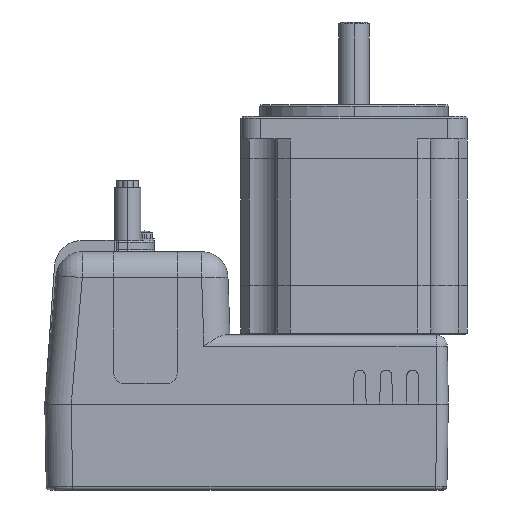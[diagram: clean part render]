
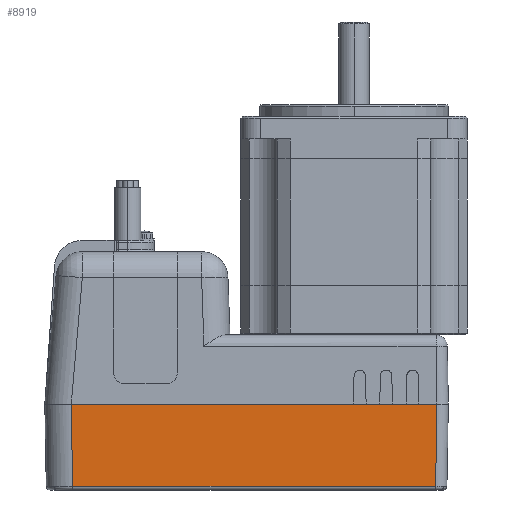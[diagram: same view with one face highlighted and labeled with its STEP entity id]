
A CAD part, left-side view. The second image highlights one B-rep face of the part: STEP entity #8919.
In plain terms, the highlighted planar face has unit normal (-1, 0, -0.018).
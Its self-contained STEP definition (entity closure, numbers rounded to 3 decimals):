
#449 = VERTEX_POINT ( 'NONE', #7434 ) ;
#543 = ORIENTED_EDGE ( 'NONE', *, *, #19586, .F. ) ;
#796 = VECTOR ( 'NONE', #15039, 1000. ) ;
#2823 = LINE ( 'NONE', #18675, #17122 ) ;
#3931 = CARTESIAN_POINT ( 'NONE',  ( -36.802, -51.102, -19.288 ) ) ;
#4202 = VECTOR ( 'NONE', #23442, 1000. ) ;
#4228 = CARTESIAN_POINT ( 'NONE',  ( -36.802, -48.102, -19.288 ) ) ;
#4804 = ORIENTED_EDGE ( 'NONE', *, *, #21598, .T. ) ;
#5712 = CARTESIAN_POINT ( 'NONE',  ( -36.802, -51.102, -19.288 ) ) ;
#5779 = LINE ( 'NONE', #22406, #796 ) ;
#5815 = DIRECTION ( 'NONE',  ( -0.017, 0., 1. ) ) ;
#6775 = AXIS2_PLACEMENT_3D ( 'NONE', #3931, #16942, #5815 ) ;
#7434 = CARTESIAN_POINT ( 'NONE',  ( -36.421, 48.519, -41.106 ) ) ;
#8533 = CARTESIAN_POINT ( 'NONE',  ( -36.803, -48.103, -19.236 ) ) ;
#8919 = ADVANCED_FACE ( 'NONE', ( #15787 ), #13143, .T. ) ;
#9181 = LINE ( 'NONE', #8533, #4202 ) ;
#10426 = EDGE_CURVE ( 'NONE', #20778, #14163, #9181, .T. ) ;
#10650 = CARTESIAN_POINT ( 'NONE',  ( -36.802, 48.899, -19.288 ) ) ;
#11329 = DIRECTION ( 'NONE',  ( 0., -1., 0. ) ) ;
#11426 = DIRECTION ( 'NONE',  ( 0., -1., 0. ) ) ;
#12152 = ORIENTED_EDGE ( 'NONE', *, *, #10426, .T. ) ;
#13143 = PLANE ( 'NONE',  #6775 ) ;
#13564 = CARTESIAN_POINT ( 'NONE',  ( -36.421, -47.721, -41.106 ) ) ;
#14163 = VERTEX_POINT ( 'NONE', #4228 ) ;
#15039 = DIRECTION ( 'NONE',  ( 0.017, -0.017, -1. ) ) ;
#15787 = FACE_OUTER_BOUND ( 'NONE', #16132, .T. ) ;
#16132 = EDGE_LOOP ( 'NONE', ( #4804, #21289, #12152, #543 ) ) ;
#16942 = DIRECTION ( 'NONE',  ( -1., 0., -0.017 ) ) ;
#17122 = VECTOR ( 'NONE', #11426, 1000. ) ;
#18675 = CARTESIAN_POINT ( 'NONE',  ( -36.421, -47.704, -41.106 ) ) ;
#18805 = VECTOR ( 'NONE', #11329, 1000. ) ;
#18890 = VERTEX_POINT ( 'NONE', #10650 ) ;
#19140 = EDGE_CURVE ( 'NONE', #449, #20778, #2823, .T. ) ;
#19586 = EDGE_CURVE ( 'NONE', #18890, #14163, #23739, .T. ) ;
#20778 = VERTEX_POINT ( 'NONE', #13564 ) ;
#21289 = ORIENTED_EDGE ( 'NONE', *, *, #19140, .T. ) ;
#21598 = EDGE_CURVE ( 'NONE', #18890, #449, #5779, .T. ) ;
#22406 = CARTESIAN_POINT ( 'NONE',  ( -36.772, 48.869, -21.033 ) ) ;
#23442 = DIRECTION ( 'NONE',  ( -0.017, -0.017, 1. ) ) ;
#23739 = LINE ( 'NONE', #5712, #18805 ) ;
